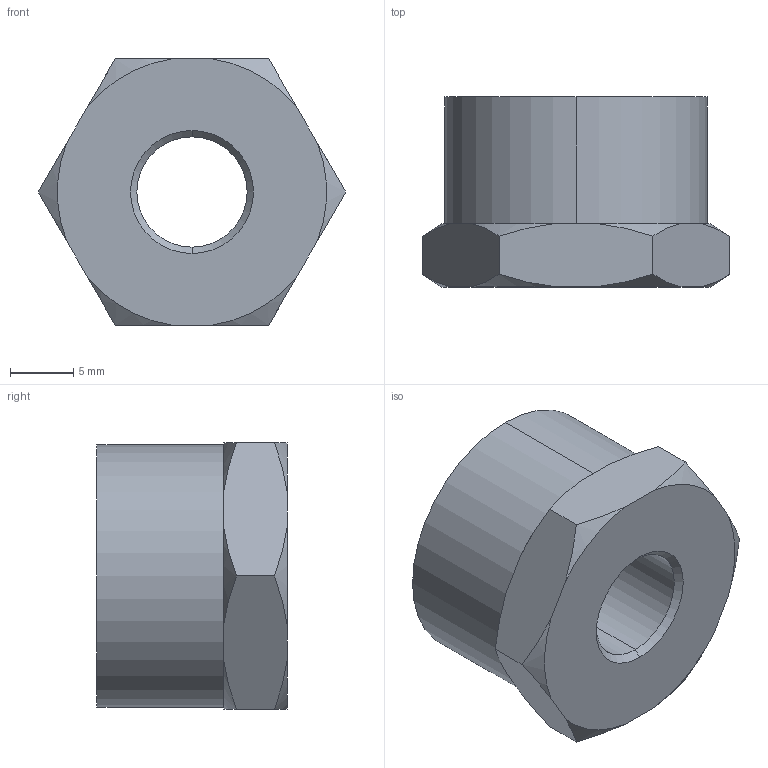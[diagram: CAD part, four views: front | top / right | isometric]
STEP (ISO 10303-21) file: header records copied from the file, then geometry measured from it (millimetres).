
FILE_DESCRIPTION (( 'STEP AP203' ), '1' );
FILE_NAME ('TTY-YJ04P-01G.STEP', '2024-01-19T03:12:58', ( 'E.mc' ), ( 'E.mc' ), 'SwSTEP 2.0', 'SolidWorks 2017', '' );
FILE_SCHEMA (( 'CONFIG_CONTROL_DESIGN' ));
Length unit declared in the file: millimetre
Products named in the file (1): TTY-YJ04P-01G
Bounding box: 24.25 x 15 x 21 mm (x, y, z)
Volume: 3537.4 mm3; surface area: 2159.7 mm2
Topology: 1 solids, 1 shells, 32 faces, 80 edges, 52 vertices
Faces by surface type: cone 16, plane 10, cylinder 6
Entity records: 1097 total; most frequent: CARTESIAN_POINT 269, ORIENTED_EDGE 160, DIRECTION 150, EDGE_CURVE 80, AXIS2_PLACEMENT_3D 61, VERTEX_POINT 52, EDGE_LOOP 36, FACE_OUTER_BOUND 32
